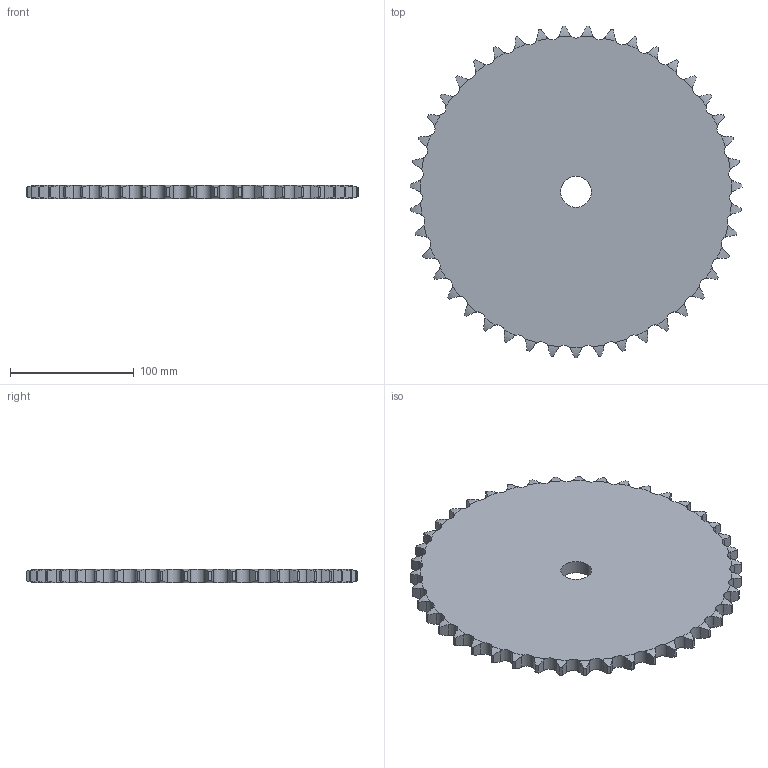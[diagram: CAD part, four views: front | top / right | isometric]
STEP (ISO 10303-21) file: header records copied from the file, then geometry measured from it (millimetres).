
FILE_DESCRIPTION((''),'2;1');
FILE_NAME('500-401-0043_PRT','2021-02-12T',('Brieden'),('Brieden'),'PRO/ENGINEER BY PARAMETRIC TECHNOLOGY CORPORATION, 2010160','PRO/ENGINEER BY PARAMETRIC TECHNOLOGY CORPORATION, 2010160','');
FILE_SCHEMA(('AUTOMOTIVE_DESIGN { 1 0 10303 214 1 1 1 1 }'));
Length unit declared in the file: millimetre
Products named in the file (1): 500-401-0043_PRT
Bounding box: 268.55 x 268.38 x 11.1 mm (x, y, z)
Volume: 565612.1 mm3; surface area: 116088 mm2
Topology: 1 solids, 1 shells, 262 faces, 780 edges, 520 vertices
Faces by surface type: cylinder 174, torus 86, plane 2
Entity records: 13018 total; most frequent: CARTESIAN_POINT 3991, ORIENTED_EDGE 1560, DIRECTION 1222, PRESENTATION_STYLE_ASSIGNMENT 781, STYLED_ITEM 781, CURVE_STYLE 780, EDGE_CURVE 780, AXIS2_PLACEMENT_3D 524
